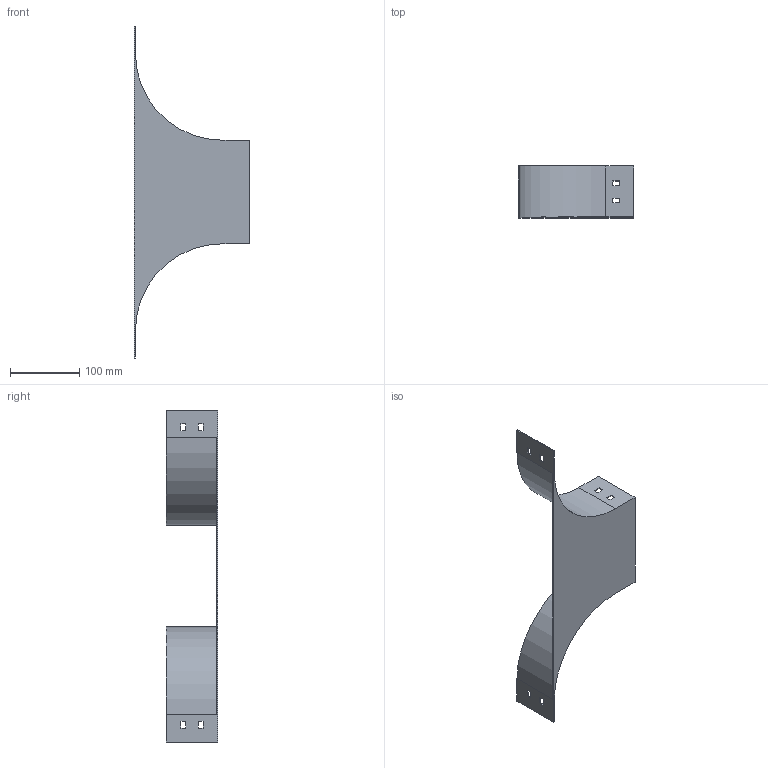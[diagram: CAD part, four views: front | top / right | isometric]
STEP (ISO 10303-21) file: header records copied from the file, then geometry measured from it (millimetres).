
FILE_DESCRIPTION (( 'STEP AP214' ), '1' );
FILE_NAME ('RL_157.step', '2025-07-16T09:24:58', ( '' ), ( '' ), 'SwSTEP 2.0', 'SolidWorks 2023', '' );
FILE_SCHEMA (( 'AUTOMOTIVE_DESIGN' ));
Length unit declared in the file: millimetre
Products named in the file (1): RL_157
Bounding box: 166.5 x 75 x 480 mm (x, y, z)
Volume: 108619.3 mm3; surface area: 147453.3 mm2
Topology: 1 solids, 1 shells, 50 faces, 144 edges, 96 vertices
Faces by surface type: plane 46, cylinder 4
Entity records: 1671 total; most frequent: CARTESIAN_POINT 291, ORIENTED_EDGE 288, DIRECTION 254, EDGE_CURVE 144, LINE 136, VECTOR 136, VERTEX_POINT 96, EDGE_LOOP 66
